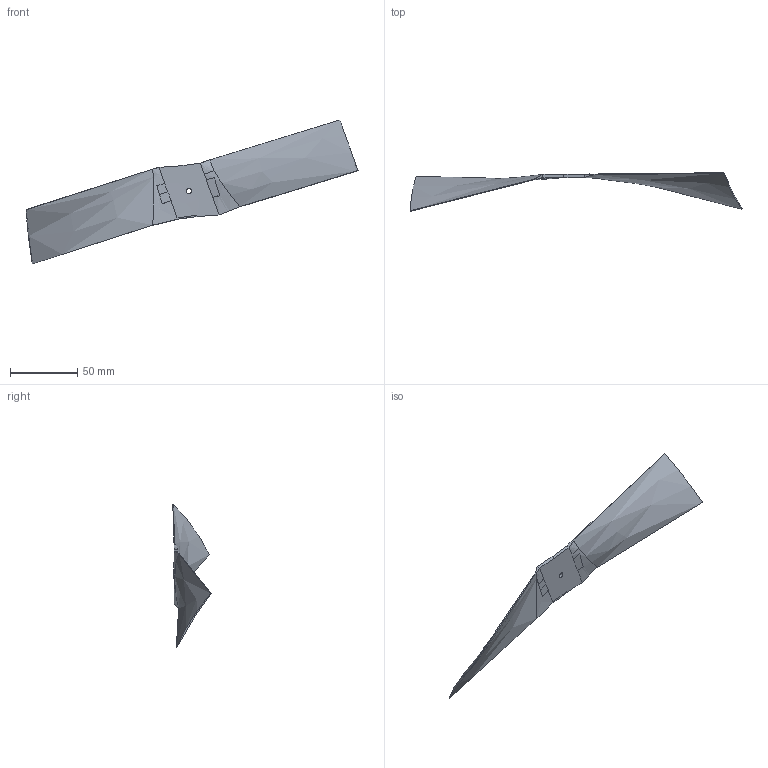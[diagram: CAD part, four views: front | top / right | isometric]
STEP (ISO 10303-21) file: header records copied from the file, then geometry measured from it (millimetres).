
FILE_DESCRIPTION(('CATIA V5 STEP Exchange'),'2;1');
FILE_NAME('E:\WAT\Sprezarka\121_00_00_Tlocznik1\Tlocznik1_stp\Lopatki_skrecone.stp','2022-09-24T10:16:21+00:00',('none'),('none'),'CATIA Version 5 Release 20 SP 4 (IN-10)','CATIA V5 STEP AP214','none');
FILE_SCHEMA(('AUTOMOTIVE_DESIGN { 1 0 10303 214 1 1 1 1 }'));
Length unit declared in the file: millimetre
Products named in the file (1): Lopatki_skrecone
Bounding box: 247 x 28.61 x 107.09 mm (x, y, z)
Volume: 15961.3 mm3; surface area: 21697.7 mm2
Topology: 1 solids, 1 shells, 65 faces, 231 edges, 170 vertices
Faces by surface type: bspline 54, plane 5, extrusion 3, cylinder 3
Entity records: 4191 total; most frequent: CARTESIAN_POINT 2283, ORIENTED_EDGE 462, EDGE_CURVE 231, B_SPLINE_CURVE_WITH_KNOTS 224, VERTEX_POINT 169, EDGE_LOOP 68, PRESENTATION_STYLE_ASSIGNMENT 67, SURFACE_STYLE_USAGE 66
